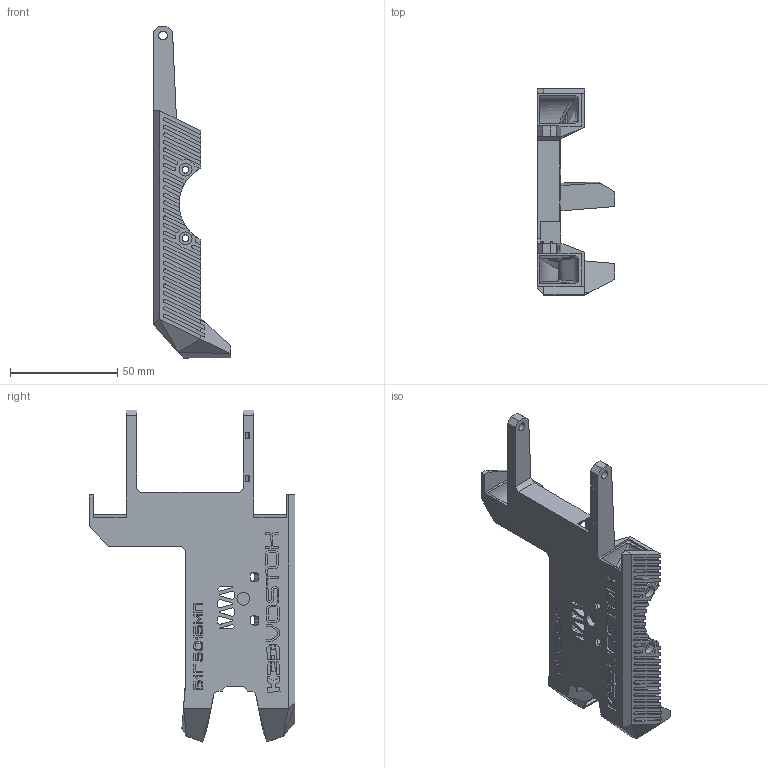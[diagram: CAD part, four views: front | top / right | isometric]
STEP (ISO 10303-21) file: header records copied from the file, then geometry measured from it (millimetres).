
FILE_DESCRIPTION(/* description */ ('CAx-IF Rec.Pracs.---Representation and Presentation of Product Manufacturing Information (PMI)---4.0---2014-10-13','CAx-IF Rec.Pracs.---3D Tessellated Geometry---0.4---2014-09-14','2;1'),/* implementation_level */ '2;1');
FILE_NAME(/* name */ 'B1G5015',/* time_stamp */ '2025-06-14T03:29:56+03:00',/* author */ (''),/* organization */ (''),/* preprocessor_version */ 'ST-DEVELOPER v20',/* originating_system */ 'SIEMENS PLM Software NX2406.6001',/* authorisation */ $);
FILE_SCHEMA (('AP242_MANAGED_MODEL_BASED_3D_ENGINEERING_MIM_LF { 1 0 10303 442 3 1 4 }'));
Length unit declared in the file: millimetre
Products named in the file (1): B1G5015
Bounding box: 36 x 95.85 x 154.62 mm (x, y, z)
Volume: 50262.3 mm3; surface area: 37442 mm2
Topology: 1 solids, 1 shells, 680 faces, 1879 edges, 1228 vertices
Faces by surface type: plane 517, cylinder 115, bspline 45, cone 3
Full cylindrical faces by diameter (mm): 1 x2, 1.8 x2, 3.2 x3, 4 x2, 6 x3
Entity records: 25224 total; most frequent: CARTESIAN_POINT 6518, ORIENTED_EDGE 3714, DIRECTION 3183, EDGE_CURVE 1857, LINE 1403, VECTOR 1403, VERTEX_POINT 1220, AXIS2_PLACEMENT_3D 890
